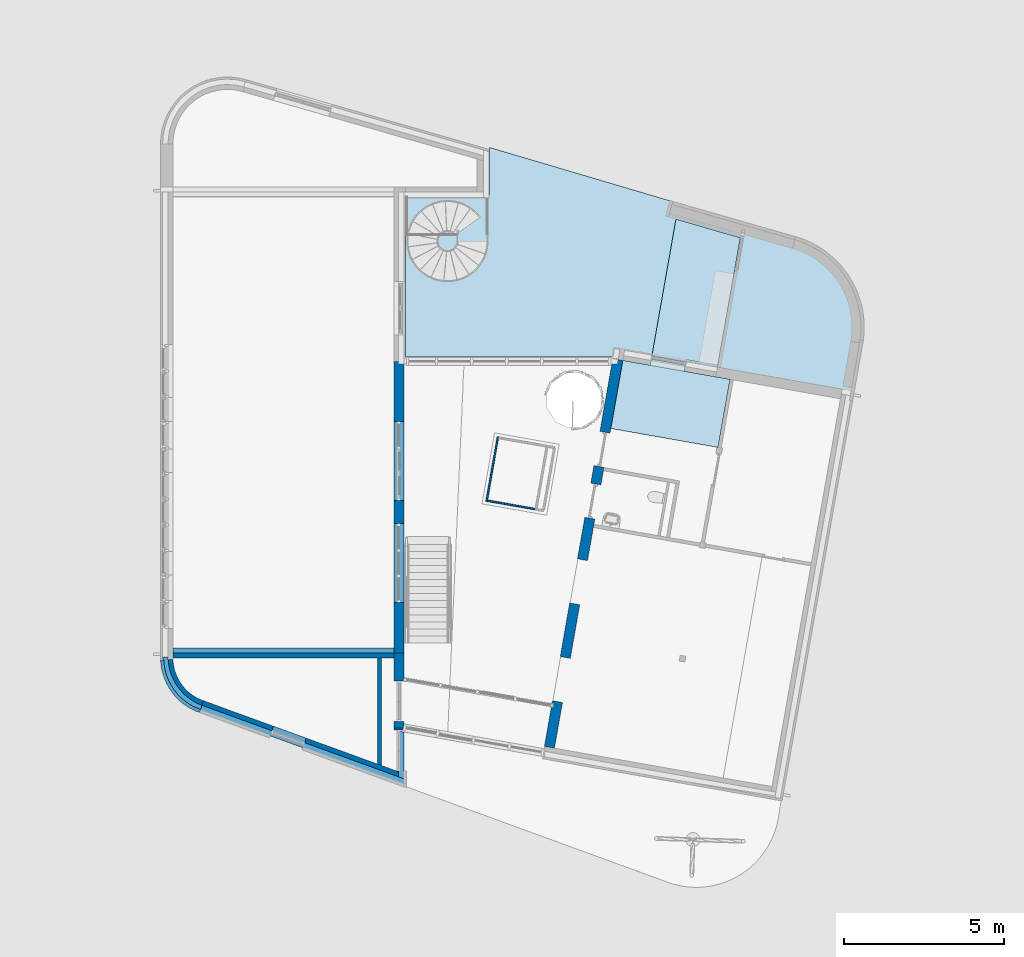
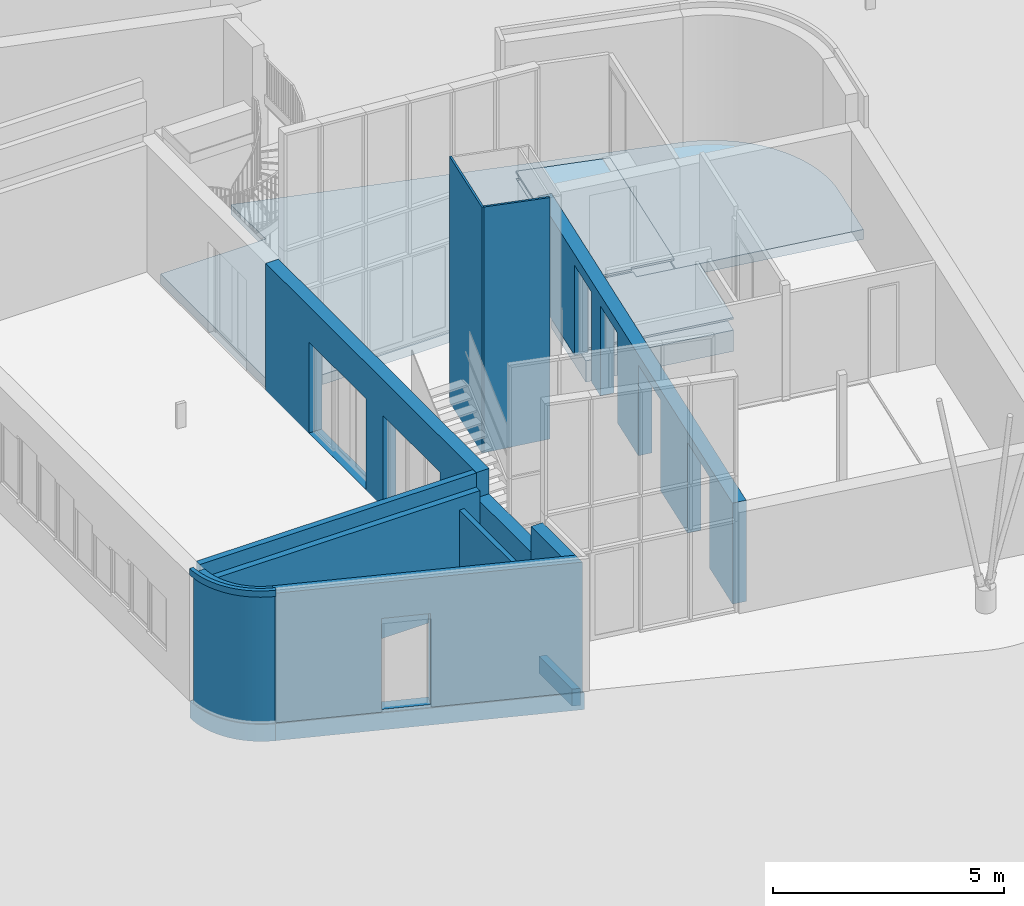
# One storey, part 11 of 21: 15 walls, 5 slabs, 10 openings.
"""IFC2X3 building model written with IfcOpenShell, lengths in millimetres."""

from ifc_helpers import new_model, entity, si_unit, converted_unit, derived_unit, direction, frame, frame_2d, origin, origin_2d_with_axis, place, context, subcontext, project, spatial, polyline, circle_curve, parameter, trimmed, segment, composite_curve, rectangle, outline, extrude, clip, bounded_halfspace, material, layer, layer_set, layer_usage, type_object, element, save


model = new_model("IFC2X3")

# Units and contexts
model_context = context("Model", 3, precision=0.01, world=origin(), true_north=direction((6.12303176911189e-17, 1.0)))
body_context = subcontext(model_context, "Body", "Model", "MODEL_VIEW")
ifc_project = project(units=[si_unit("LENGTHUNIT", "METRE", prefix="MILLI"), si_unit("AREAUNIT", "SQUARE_METRE"), si_unit("VOLUMEUNIT", "CUBIC_METRE"), converted_unit("PLANEANGLEUNIT", "DEGREE", entity("IfcRatioMeasure", 0.0174532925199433), si_unit("PLANEANGLEUNIT", "RADIAN"), dimensions=[0, 0, 0, 0, 0, 0, 0]), si_unit("MASSUNIT", "GRAM", prefix="KILO"), derived_unit("MASSDENSITYUNIT", [(si_unit("MASSUNIT", "GRAM", prefix="KILO"), 1), (si_unit("LENGTHUNIT", "METRE"), -3)]), derived_unit("MOMENTOFINERTIAUNIT", [(si_unit("LENGTHUNIT", "METRE"), 4)]), si_unit("TIMEUNIT", "SECOND"), si_unit("FREQUENCYUNIT", "HERTZ"), si_unit("THERMODYNAMICTEMPERATUREUNIT", "DEGREE_CELSIUS"), derived_unit("THERMALTRANSMITTANCEUNIT", [(si_unit("MASSUNIT", "GRAM", prefix="KILO"), 1), (si_unit("THERMODYNAMICTEMPERATUREUNIT", "KELVIN"), -1), (si_unit("TIMEUNIT", "SECOND"), -3)]), derived_unit("VOLUMETRICFLOWRATEUNIT", [(si_unit("LENGTHUNIT", "METRE"), 3), (si_unit("TIMEUNIT", "SECOND"), -1)]), si_unit("ELECTRICCURRENTUNIT", "AMPERE"), si_unit("ELECTRICVOLTAGEUNIT", "VOLT"), si_unit("POWERUNIT", "WATT"), si_unit("FORCEUNIT", "NEWTON", prefix="KILO"), si_unit("ILLUMINANCEUNIT", "LUX"), si_unit("LUMINOUSFLUXUNIT", "LUMEN"), si_unit("LUMINOUSINTENSITYUNIT", "CANDELA"), derived_unit("USERDEFINED", [(si_unit("MASSUNIT", "GRAM", prefix="KILO"), -1), (si_unit("LENGTHUNIT", "METRE"), -2), (si_unit("TIMEUNIT", "SECOND"), 3), (si_unit("LUMINOUSFLUXUNIT", "LUMEN"), 1)]), derived_unit("LINEARVELOCITYUNIT", [(si_unit("LENGTHUNIT", "METRE"), 1), (si_unit("TIMEUNIT", "SECOND"), -1)]), si_unit("PRESSUREUNIT", "PASCAL"), derived_unit("USERDEFINED", [(si_unit("LENGTHUNIT", "METRE"), -2), (si_unit("MASSUNIT", "GRAM", prefix="KILO"), 1), (si_unit("TIMEUNIT", "SECOND"), -2)]), derived_unit("LINEARFORCEUNIT", [(si_unit("MASSUNIT", "GRAM", prefix="KILO"), 1), (si_unit("LENGTHUNIT", "METRE"), 1), (si_unit("TIMEUNIT", "SECOND"), -2), (si_unit("LENGTHUNIT", "METRE"), -1)]), derived_unit("PLANARFORCEUNIT", [(si_unit("MASSUNIT", "GRAM", prefix="KILO"), 1), (si_unit("LENGTHUNIT", "METRE"), 1), (si_unit("TIMEUNIT", "SECOND"), -2), (si_unit("LENGTHUNIT", "METRE"), -2)])], contexts=[model_context])

# Site, building, storey
site_placement = place(None, origin())
site = spatial("IfcSite", under=ifc_project, at=site_placement, Name="<Kadaster Gemeente>;<Kadaster nummer>;<Kadaster sectie>", CompositionType="ELEMENT")
building_placement = place(site_placement, origin())
building = spatial("IfcBuilding", under=site, at=building_placement, Name="JRCZ Middelburg", CompositionType="ELEMENT")
storey_placement = place(building_placement, origin())
storey = spatial("IfcBuildingStorey", under=building, at=storey_placement, Name="00 begane grond", CompositionType="ELEMENT", Elevation=0.0)

# Slabs
ifc_material_1 = material(Name="RBM_f2_beton_prefab_gen")
ifc_layer_1 = layer(ifc_material_1, 260.0)
ifc_layer_set_1 = layer_set([ifc_layer_1], Name="Floor:RBM_23_FL_kanaalplaat-200mm_gen_rsf")
ifc_layer_usage_1 = layer_usage(ifc_layer_set_1, "AXIS3", "POSITIVE", 0.0)
slab_type_1 = type_object("IfcSlabType", Name="Floor:RBM_23_FL_kanaalplaat-200mm_gen_rsf", PredefinedType="FLOOR", material=ifc_layer_set_1)
slab_1_placement = place(storey_placement, origin())
element("IfcSlab", 1, at=slab_1_placement, inside=storey, type_object=slab_type_1, material=ifc_layer_usage_1, Name="Floor:RBM_23_FL_kanaalplaat-200mm_gen_rsf", ObjectType="Floor:RBM_23_FL_kanaalplaat-200mm_gen_rsf", PredefinedType="FLOOR", context=body_context, shape_type="SweptSolid", body=[
    extrude(outline(composite_curve([segment(polyline([(-2120.34892694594, -7310.95471218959), (2923.01016377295, -7310.95471218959)]), True, "CONTINUOUS"), segment(polyline([(2923.01016377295, -7310.95471218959), (2923.01016377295, -4689.3218513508)]), True, "CONTINUOUS"), segment(polyline([(2923.01016377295, -4689.3218513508), (4427.10749952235, -4689.3218513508)]), True, "CONTINUOUS"), segment(polyline([(4427.10749952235, -4689.3218513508), (1599.15531280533, 4875.05432193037)]), True, "CONTINUOUS"), segment(trimmed(circle_curve(frame_2d((-1205.80631594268, 4070.74451765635), x_axis=(0.961261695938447, 0.275637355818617)), 2917.99999999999), [parameter(0.0)], [parameter(84.0000000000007)], True, "PARAMETER"), True, "CONTINUOUS"), segment(polyline([(-1712.51169837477, 6944.41354094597), (-3222.04385467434, 6678.24229354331)]), True, "CONTINUOUS"), segment(polyline([(-3222.04385467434, 6678.24229354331), (-2472.23102350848, 2425.84241603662)]), True, "CONTINUOUS"), segment(polyline([(-2472.23102350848, 2425.84241603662), (1609.36431708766, 3144.9494493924)]), True, "CONTINUOUS"), segment(polyline([(1609.36431708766, 3144.9494493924), (2185.32986616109, 1133.29765377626)]), True, "CONTINUOUS"), segment(polyline([(2185.32986616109, 1133.29765377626), (-2110.75020569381, 375.782825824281)]), True, "CONTINUOUS"), segment(polyline([(-2110.75020569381, 375.782825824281), (-1908.74268697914, -769.858742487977)]), True, "CONTINUOUS"), segment(polyline([(-1908.74268697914, -769.858742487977), (-2120.34892694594, -807.170631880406)]), True, "CONTINUOUS"), segment(polyline([(-2120.34892694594, -807.170631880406), (-2120.34892694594, -7310.95471218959)]), True, "CONTINUOUS")], self_intersect=False)), frame((24726.9547121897, 21358.989836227, -200.0), z_axis=(0.0, 0.0, -1.0), x_axis=(0.0, 1.0, 0.0)), (0.0, 0.0, 1.0), 260.0),
])
ifc_material_2 = material(Name="RBM_n7_isolatie_hsb_245")
ifc_layer_2 = layer(ifc_material_2, 560.0)
ifc_layer_set_2 = layer_set([ifc_layer_2], Name="Floor:RBM_23_FL_tempex 690mm")
ifc_layer_usage_2 = layer_usage(ifc_layer_set_2, "AXIS3", "POSITIVE", 0.0)
slab_type_2 = type_object("IfcSlabType", Name="Floor:RBM_23_FL_tempex 690mm", PredefinedType="FLOOR", material=ifc_layer_set_2)
slab_2_placement = place(storey_placement, origin())
element("IfcSlab", 2, at=slab_2_placement, inside=storey, type_object=slab_type_2, material=ifc_layer_usage_2, Name="Floor:RBM_23_FL_tempex 690mm", ObjectType="Floor:RBM_23_FL_tempex 690mm", PredefinedType="FLOOR", context=body_context, shape_type="SweptSolid", body=[
    extrude(rectangle(XDim=2160.00000000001, YDim=3400.0, at=frame_2d((-7.95807864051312e-13, -4.32009983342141e-12), x_axis=(1.0, 0.0))), frame((25687.7096934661, 17776.2981837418, -330.0), z_axis=(0.0, 0.0, -1.0), x_axis=(-0.173648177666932, -0.984807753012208, 0.0)), (0.0, 0.0, 1.0), 560.0),
])
ifc_layer_usage_3 = layer_usage(ifc_layer_set_1, "AXIS3", "POSITIVE", 0.0)
slab_type_3 = type_object("IfcSlabType", Name="Floor:RBM_23_FL_kanaalplaat-200mm_gen_rsf", PredefinedType="FLOOR", material=ifc_layer_set_1)
slab_3_placement = place(storey_placement, origin())
element("IfcSlab", 3, at=slab_3_placement, inside=storey, type_object=slab_type_3, material=ifc_layer_usage_3, Name="Floor:RBM_23_FL_kanaalplaat-200mm_gen_rsf", ObjectType="Floor:RBM_23_FL_kanaalplaat-200mm_gen_rsf", PredefinedType="FLOOR", context=body_context, shape_type="SweptSolid", body=[
    extrude(outline(polyline([(-2007.75526353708, -1040.55282633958), (2116.70309843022, -1040.55282633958), (2116.70309843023, 1040.55282633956), (-2225.65093332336, 1040.55282633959), (-2007.75526353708, -1040.55282633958)])), frame((26498.5166280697, 21171.7913056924, -250.0), z_axis=(0.0, 0.0, -1.0), x_axis=(-0.173648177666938, -0.984807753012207, 0.0)), (0.0, 0.0, 1.0), 260.0),
])
ifc_material_3 = material(Name="Roostervloer")
ifc_layer_3 = layer(ifc_material_3, 50.0)
ifc_layer_set_3 = layer_set([ifc_layer_3], Name="Floor:RBM_43_FL_roostervloer")
ifc_layer_usage_4 = layer_usage(ifc_layer_set_3, "AXIS3", "POSITIVE", 0.0)
slab_type_4 = type_object("IfcSlabType", Name="Floor:RBM_43_FL_roostervloer", PredefinedType="FLOOR", material=ifc_layer_set_3)
slab_4_placement = place(storey_placement, origin())
element("IfcSlab", 4, at=slab_4_placement, inside=storey, type_object=slab_type_4, material=ifc_layer_usage_4, Name="Floor:RBM_43_FL_roostervloer", ObjectType="Floor:RBM_43_FL_roostervloer", PredefinedType="FLOOR", context=body_context, shape_type="SweptSolid", body=[
    extrude(outline(polyline([(-2680.65629634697, -1026.07043511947), (1365.80206562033, -1026.07043511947), (1365.80206562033, -28.9647824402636), (1423.80206561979, -28.9647824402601), (1423.80206561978, 1055.03521755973), (-2898.55196613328, 1055.03521755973), (-2680.65629634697, -1026.07043511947)])), frame((26395.9309611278, 20506.5983107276, 0.0), z_axis=(0.0, 0.0, -1.0), x_axis=(-0.17364817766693, -0.984807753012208, 0.0)), (0.0, 0.0, 1.0), 50.0),
])
ifc_layer_usage_5 = layer_usage(ifc_layer_set_3, "AXIS3", "POSITIVE", 0.0)
slab_type_5 = type_object("IfcSlabType", Name="Floor:RBM_43_FL_roostervloer", PredefinedType="FLOOR", material=ifc_layer_set_3)
slab_5_placement = place(storey_placement, origin())
element("IfcSlab", 5, at=slab_5_placement, inside=storey, type_object=slab_type_5, material=ifc_layer_usage_5, Name="Floor:RBM_43_FL_roostervloer", ObjectType="Floor:RBM_43_FL_roostervloer", PredefinedType="FLOOR", context=body_context, shape_type="SweptSolid", body=[
    extrude(outline(polyline([(-491.499999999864, -1844.84253192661), (1668.50000000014, -1844.84253192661), (1668.50000000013, 1555.15746807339), (-491.499999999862, 1555.15746807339), (-491.499999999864, 686.842531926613), (-685.500000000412, 686.842531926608), (-685.500000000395, -397.157468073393), (-491.499999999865, -397.15746807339), (-491.499999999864, -1844.84253192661)])), frame((25647.2595976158, 18381.0091881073, 0.0), z_axis=(0.0, 0.0, -1.0), x_axis=(-0.17364817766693, -0.984807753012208, 0.0)), (0.0, 0.0, 1.0), 50.0),
])

# Wall, openings
ifc_material_4 = material(Name="RBM_f7_gips_beplating wand")
ifc_layer_4 = layer(ifc_material_4, 12.5)
ifc_material_5 = material(Name="RBM_i4_multiplex_beplating")
ifc_layer_5 = layer(ifc_material_5, 18.0)
ifc_material_6 = material(Name="RBM_n7_isolatie_hsb_270")
ifc_layer_6 = layer(ifc_material_6, 270.0)
ifc_layer_7 = layer(ifc_material_5, 18.0)
ifc_layer_set_4 = layer_set([ifc_layer_4, ifc_layer_5, ifc_layer_6, ifc_layer_7], Name="Basic Wall:22_hsb_binnenwand_gips_318,5mm")
ifc_layer_usage_6 = layer_usage(ifc_layer_set_4, "AXIS2", "NEGATIVE", 159.25)
wall_type_1 = type_object("IfcWallType", Name="Basic Wall:22_hsb_binnenwand_gips_318,5mm", PredefinedType="STANDARD", material=ifc_layer_set_4)
wall_1_placement = place(storey_placement, frame((17209.2500000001, 19103.6233878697, -10.0), z_axis=(0.0, 0.0, 1.0), x_axis=(0.0, -1.0, 0.0)))
wall_1 = element("IfcWallStandardCase", 6, at=wall_1_placement, inside=storey, type_object=wall_type_1, material=ifc_layer_usage_6, Name="Basic Wall:22_hsb_binnenwand_gips_318,5mm", ObjectType="Basic Wall:22_hsb_binnenwand_gips_318,5mm", context=body_context, shape_type="SweptSolid", body=[
    extrude(rectangle(XDim=9103.62338786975, YDim=318.500000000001, at=frame_2d((4551.81169393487, 0.0), x_axis=(-1.0, 0.0))), origin(), (0.0, 0.0, 1.0), 3355.0),
])
opening_1_placement = place(storey_placement, frame((17209.2500000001, 19103.6233878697, -10.0), z_axis=(0.0, 0.0, 1.0), x_axis=(0.0, -1.0, 0.0)))
element("IfcOpeningElement", 7, at=opening_1_placement, cuts=wall_1, Name="Basic Wall:22_hsb_binnenwand_gips_318,5mm:1", ObjectType="Opening", context=body_context, shape_type="SweptSolid", body=[
    extrude(outline(polyline([(-668.369513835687, -25.2448096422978), (659.46828483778, -25.2448096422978), (668.371478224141, 25.2448096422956), (-659.470249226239, 25.2448096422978), (-668.369513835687, -25.2448096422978)])), frame((4577.87402907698, 134.005190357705, 2960.0)), (0.0, 0.0, 1.0), 50.0),
])
opening_2_placement = place(wall_1_placement, origin())
element("IfcOpeningElement", 8, at=opening_2_placement, cuts=wall_1, Name="Basic Wall:22_hsb_binnenwand_gips_318,5mm", ObjectType="Opening", context=body_context, shape_type="SweptSolid", body=[
    extrude(rectangle(XDim=2400.0, YDim=2467.0, at=frame_2d((-2.1600499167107e-12, 0.0), x_axis=(0.0, 1.0))), frame((6303.62338817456, -311.649999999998, 1210.0), z_axis=(0.0, 1.0, 0.0), x_axis=(-1.0, 0.0, 0.0)), (0.0, 0.0, 1.0), 623.299999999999),
])
opening_3_placement = place(wall_1_placement, origin())
element("IfcOpeningElement", 9, at=opening_3_placement, cuts=wall_1, Name="Basic Wall:22_hsb_binnenwand_gips_318,5mm", ObjectType="Opening", context=body_context, shape_type="SweptSolid", body=[
    extrude(rectangle(XDim=2400.0, YDim=2467.0, at=frame_2d((2.1600499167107e-12, 0.0), x_axis=(0.0, 1.0))), frame((3103.62338817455, -311.649999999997, 1210.0), z_axis=(0.0, 1.0, 0.0), x_axis=(-1.0, 0.0, 0.0)), (0.0, 0.0, 1.0), 623.299999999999),
])

ifc_layer_usage_7 = layer_usage(ifc_layer_set_4, "AXIS2", "NEGATIVE", 159.25)
wall_2_placement = place(storey_placement, frame((21908.3733252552, 7049.61056927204, 0.0), z_axis=(0.0, 0.0, 1.0), x_axis=(0.17364817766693, 0.984807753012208, 0.0)))
wall_2 = element("IfcWallStandardCase", 10, at=wall_2_placement, inside=storey, type_object=wall_type_1, material=ifc_layer_usage_7, Name="Basic Wall:22_hsb_binnenwand_gips_318,5mm", ObjectType="Basic Wall:22_hsb_binnenwand_gips_318,5mm", context=body_context, shape_type="SweptSolid", body=[
    extrude(rectangle(XDim=12300.0, YDim=318.5, at=frame_2d((6149.99999999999, -8.5265128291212e-13), x_axis=(-1.0, 0.0))), origin(), (0.0, 0.0, 1.0), 2666.0),
])
opening_4_placement = place(wall_2_placement, origin())
element("IfcOpeningElement", 11, at=opening_4_placement, cuts=wall_2, Name="Basic Wall:22_hsb_binnenwand_gips_318,5mm", ObjectType="Opening", context=body_context, shape_type="SweptSolid", body=[
    extrude(rectangle(XDim=2400.0, YDim=1400.00000000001, at=origin_2d_with_axis()), frame((5250.0, -159.25, 1200.0), z_axis=(0.0, 1.0, 0.0), x_axis=(0.0, 0.0, -1.0)), (0.0, 0.0, 1.0), 318.499999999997),
])
opening_5_placement = place(wall_2_placement, origin())
element("IfcOpeningElement", 12, at=opening_5_placement, cuts=wall_2, Name="Basic Wall:22_hsb_binnenwand_gips_318,5mm", ObjectType="Opening", context=body_context, shape_type="SweptSolid", body=[
    extrude(rectangle(XDim=2400.0, YDim=1400.0, at=frame_2d((0.0, -1.02318153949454e-12), x_axis=(1.0, 0.0))), frame((2150.0, -159.249999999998, 1200.0), z_axis=(0.0, 1.0, 0.0), x_axis=(0.0, 0.0, -1.0)), (0.0, 0.0, 1.0), 318.499999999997),
])
opening_6_placement = place(wall_2_placement, frame((-10746.8602479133, 20351.3838779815, 0.0), z_axis=(0.0, 0.0, 1.0), x_axis=(0.17364817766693, -0.984807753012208, 0.0)))
element("IfcOpeningElement", 13, at=opening_6_placement, cuts=wall_2, Name="Basic Wall:22_hsb_binnenwand_gips_318,5mm", ObjectType="Opening", context=body_context, shape_type="SweptSolid", body=[
    extrude(rectangle(XDim=2377.0, YDim=1084.0, at=frame_2d((1.4210854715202e-12, 0.0), x_axis=(0.0, 1.0))), frame((24893.3649851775, 16119.0574850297, 1188.5), z_axis=(-0.984807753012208, 0.17364817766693, 0.0), x_axis=(-0.17364817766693, -0.984807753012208, 0.0)), (0.0, 0.0, 1.0), 3048.0),
])
opening_7_placement = place(wall_2_placement, frame((-10746.8602479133, 20351.3838779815, 0.0), z_axis=(0.0, 0.0, 1.0), x_axis=(0.17364817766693, -0.984807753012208, 0.0)))
element("IfcOpeningElement", 14, at=opening_7_placement, cuts=wall_2, Name="Basic Wall:22_hsb_binnenwand_gips_318,5mm", ObjectType="Opening", context=body_context, shape_type="SweptSolid", body=[
    extrude(rectangle(XDim=2377.0, YDim=1084.0, at=frame_2d((0.0, -1.4210854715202e-12), x_axis=(1.0, 0.0))), frame((24921.8959467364, 14446.6962097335, 1188.5), z_axis=(-0.984807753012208, 0.17364817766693, 0.0), x_axis=(0.0, 0.0, 1.0)), (0.0, 0.0, 1.0), 3048.0),
])

# Wall, opening
ifc_layer_usage_8 = layer_usage(ifc_layer_set_4, "AXIS2", "NEGATIVE", 159.25)
wall_3_placement = place(storey_placement, frame((17209.2500000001, 10000.0, 0.0), z_axis=(0.0, 0.0, 1.0), x_axis=(0.0, -1.0, 0.0)))
wall_3 = element("IfcWallStandardCase", 15, at=wall_3_placement, inside=storey, type_object=wall_type_1, material=ifc_layer_usage_8, Name="Basic Wall:22_hsb_binnenwand_gips_318,5mm", ObjectType="Basic Wall:22_hsb_binnenwand_gips_318,5mm", context=body_context, shape_type="SweptSolid", body=[
    extrude(rectangle(XDim=2351.37637520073, YDim=318.500000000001, at=frame_2d((1175.68818760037, -2.1316282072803e-13), x_axis=(-1.0, 0.0))), origin(), (0.0, 0.0, 1.0), 2676.0),
])
opening_8_placement = place(wall_3_placement, origin())
element("IfcOpeningElement", 16, at=opening_8_placement, cuts=wall_3, Name="Basic Wall:22_hsb_binnenwand_gips_318,5mm", ObjectType="Opening", context=body_context, shape_type="SweptSolid", body=[
    extrude(rectangle(XDim=2000.0, YDim=1280.0, at=frame_2d((0.0, 0.0), x_axis=(0.0, 1.0))), frame((1511.25921397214, -311.65, 1000.0), z_axis=(0.0, 1.0, 0.0), x_axis=(-1.0, 0.0, 0.0)), (0.0, 0.0, 1.0), 623.299999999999),
])

# Wall
ifc_layer_8 = layer(ifc_material_5, 18.0)
ifc_layer_9 = layer(ifc_material_6, 270.0)
ifc_layer_10 = layer(ifc_material_5, 18.0)
ifc_layer_set_5 = layer_set([ifc_layer_8, ifc_layer_9, ifc_layer_10], Name="Basic Wall:22_WA_hsb_binnenwand_306mm")
ifc_layer_usage_9 = layer_usage(ifc_layer_set_5, "AXIS2", "NEGATIVE", 153.0)
wall_type_2 = type_object("IfcWallType", Name="Basic Wall:22_WA_hsb_binnenwand_306mm", PredefinedType="STANDARD", material=ifc_layer_set_5)
wall_4_placement = place(storey_placement, frame((17050.0, 9997.0, -80.0), z_axis=(0.0, 0.0, 1.0), x_axis=(-1.0, 0.0, 0.0)))
element("IfcWallStandardCase", 17, at=wall_4_placement, inside=storey, type_object=wall_type_2, material=ifc_layer_usage_9, Name="Basic Wall:22_WA_hsb_binnenwand_306mm", ObjectType="Basic Wall:22_WA_hsb_binnenwand_306mm", context=body_context, shape_type="SweptSolid", body=[
    extrude(rectangle(XDim=6900.0, YDim=306.0, at=frame_2d((3450.0, -1.06581410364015e-12), x_axis=(-1.0, 0.0))), origin(), (0.0, 0.0, 1.0), 3045.0),
])

# Wall, opening
ifc_layer_11 = layer(ifc_material_6, 270.0)
ifc_layer_12 = layer(ifc_material_5, 18.0)
ifc_layer_set_6 = layer_set([ifc_layer_11, ifc_layer_12], Name="Basic Wall:21_RBM_WA_hsb_270mm -  geïsoleerd")
ifc_layer_usage_10 = layer_usage(ifc_layer_set_6, "AXIS2", "POSITIVE", -144.0)
wall_type_3 = type_object("IfcWallType", Name="Basic Wall:21_RBM_WA_hsb_270mm -  geïsoleerd", PredefinedType="STANDARD", material=ifc_layer_set_6)
wall_5_placement = place(storey_placement, frame((17200.0, 6233.57866799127, 0.0), z_axis=(0.0, 0.0, 1.0), x_axis=(0.0, 1.0, 0.0)))
wall_5 = element("IfcWallStandardCase", 18, at=wall_5_placement, inside=storey, type_object=wall_type_3, material=ifc_layer_usage_10, Name="Basic Wall:21_RBM_WA_hsb_270mm -  geïsoleerd", ObjectType="Basic Wall:21_RBM_WA_hsb_270mm -  geïsoleerd", context=body_context, shape_type="SweptSolid", body=[
    extrude(outline(polyline([(0.0, -144.0), (1415.044956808, -144.0), (1415.04495680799, 144.0), (104.823427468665, 144.0), (0.0, -144.0)])), origin(), (0.0, 0.0, 1.0), 3350.0),
])
opening_9_placement = place(wall_5_placement, origin())
element("IfcOpeningElement", 19, at=opening_9_placement, cuts=wall_5, Name="Basic Wall:21_RBM_WA_hsb_270mm -  geïsoleerd", ObjectType="Opening", context=body_context, shape_type="SweptSolid", body=[
    extrude(rectangle(XDim=2400.0, YDim=1280.0, at=origin_2d_with_axis()), frame((718.383495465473, -296.399999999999, 1200.0), z_axis=(0.0, 1.0, 0.0), x_axis=(0.0, 0.0, 1.0)), (0.0, 0.0, 1.0), 592.8),
])

ifc_layer_usage_11 = layer_usage(ifc_layer_set_6, "AXIS2", "POSITIVE", -144.0)
wall_6_placement = place(storey_placement, frame((11048.3642880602, 8371.76107368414, -70.0), z_axis=(0.0, 0.0, 1.0), x_axis=(0.93969262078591, -0.342020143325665, 0.0)))
wall_6 = element("IfcWallStandardCase", 20, at=wall_6_placement, inside=storey, type_object=wall_type_3, material=ifc_layer_usage_11, Name="Basic Wall:21_RBM_WA_hsb_270mm -  geïsoleerd", ObjectType="Basic Wall:21_RBM_WA_hsb_270mm -  geïsoleerd", context=body_context, shape_type="SweptSolid", body=[
    extrude(outline(polyline([(6752.08730198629, -144.0), (6647.26387451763, 144.0), (0.0, 144.0), (0.0, -144.0), (6752.08730198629, -144.0)])), origin(), (0.0, 0.0, 1.0), 3420.0),
])
opening_10_placement = place(wall_6_placement, origin())
element("IfcOpeningElement", 21, at=opening_10_placement, cuts=wall_6, Name="Basic Wall:21_RBM_WA_hsb_270mm -  geïsoleerd", ObjectType="Opening", context=body_context, shape_type="SweptSolid", body=[
    extrude(rectangle(XDim=2400.0, YDim=1084.0, at=origin_2d_with_axis()), frame((2880.90891550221, -296.400000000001, 1270.0), z_axis=(0.0, 1.0, 0.0), x_axis=(0.0, 0.0, 1.0)), (0.0, 0.0, 1.0), 592.799999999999),
])

# Walls
ifc_layer_usage_12 = layer_usage(ifc_layer_set_6, "AXIS2", "POSITIVE", -144.0)
wall_7_placement = place(storey_placement, frame((11049.4464960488, 8371.19306263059, -70.0)))
element("IfcWallStandardCase", 22, at=wall_7_placement, inside=storey, type_object=wall_type_3, material=ifc_layer_usage_12, Name="Basic Wall:21_RBM_WA_hsb_270mm -  geïsoleerd", ObjectType="Basic Wall:21_RBM_WA_hsb_270mm -  geïsoleerd", context=body_context, shape_type="SweptSolid", body=[
    extrude(outline(composite_curve([segment(trimmed(circle_curve(frame_2d((522.823697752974, 1476.43903648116), x_axis=(1.0, 0.0)), 1710.27483136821), [parameter(182.131811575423)], [parameter(250.50037193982)], True, "PARAMETER"), True, "CONTINUOUS"), segment(polyline([(-48.0673065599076, -135.74068675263), (48.067306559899, 135.740686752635)]), True, "CONTINUOUS"), segment(trimmed(circle_curve(frame_2d((522.823697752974, 1476.43903648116), x_axis=(1.0, 0.0)), 1422.27483136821), [parameter(182.131811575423)], [parameter(250.50037193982)], True, "PARAMETER"), False, "CONTINUOUS"), segment(polyline([(-898.466769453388, 1423.53247949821), (-1186.26744308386, 1412.81929799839)]), True, "CONTINUOUS")], self_intersect=False)), origin(), (0.0, 0.0, 1.0), 3420.0),
])
ifc_material_7 = material(Name="RBM_o1_glas_helder")
ifc_layer_13 = layer(ifc_material_7, 50.0)
ifc_layer_set_7 = layer_set([ifc_layer_13], Name="Basic Wall:22_RBM_WA_ontwerpwand-40mm_transparant")
ifc_layer_usage_13 = layer_usage(ifc_layer_set_7, "AXIS2", "NEGATIVE", 25.0)
wall_type_4 = type_object("IfcWallType", Name="Basic Wall:22_RBM_WA_ontwerpwand-40mm_transparant", PredefinedType="STANDARD", material=ifc_layer_set_7)
wall_8_placement = place(storey_placement, frame((19944.4385402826, 14731.0452868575, -20.0), z_axis=(0.0, 0.0, 1.0), x_axis=(0.17364817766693, 0.984807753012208, 0.0)))
element("IfcWallStandardCase", 23, at=wall_8_placement, inside=storey, type_object=wall_type_4, material=ifc_layer_usage_13, Name="Basic Wall:22_RBM_WA_ontwerpwand-40mm_transparant", ObjectType="Basic Wall:22_RBM_WA_ontwerpwand-40mm_transparant", context=body_context, shape_type="Clipping", body=[
    clip(extrude(rectangle(XDim=2050.0, YDim=49.9999999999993, at=frame_2d((1025.0, 1.48325796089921e-12), x_axis=(-1.0, 0.0))), origin(), (0.0, 0.0, 1.0), 6486.76741281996), bounded_halfspace(frame((0.0, -25.0, 6483.01741281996), z_axis=(0.0, 0.0747899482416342, -0.997199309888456), x_axis=(0.0, 0.997199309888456, 0.0747899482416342)), True, frame((0.0, -25.0, 6483.01741281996)), polyline([(0.0, 0.0), (50.0, 0.0), (2000.0, 0.0), (2050.0, 0.0), (2050.0, 50.0), (0.0, 50.0), (0.0, 0.0)]))),
])
ifc_layer_usage_14 = layer_usage(ifc_layer_set_7, "AXIS2", "NEGATIVE", 25.0)
wall_9_placement = place(storey_placement, frame((21464.2581026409, 14488.4457575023, -20.0), z_axis=(0.0, 0.0, 1.0), x_axis=(-0.984807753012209, 0.173648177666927, 0.0)))
element("IfcWallStandardCase", 24, at=wall_9_placement, inside=storey, type_object=wall_type_4, material=ifc_layer_usage_14, Name="Basic Wall:22_RBM_WA_ontwerpwand-40mm_transparant", ObjectType="Basic Wall:22_RBM_WA_ontwerpwand-40mm_transparant", context=body_context, shape_type="Clipping", body=[
    clip(extrude(outline(polyline([(1513.85705436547, -25.0), (1513.85705436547, 25.0), (0.0, 25.0), (0.00852088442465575, -25.0), (1513.85705436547, -25.0)])), origin(), (0.0, 0.0, 1.0), 6483.01741281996), bounded_halfspace(frame((0.00852088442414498, -25.0, 6369.47877280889), z_axis=(0.0747899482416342, 0.0, -0.997199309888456), x_axis=(0.997199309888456, 0.0, 0.0747899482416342)), True, frame((0.00852088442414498, -25.0, 6369.47877280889)), polyline([(0.0, 0.0), (1513.84853348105, 0.0), (1513.84853348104, 50.0), (-0.00852088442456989, 50.0), (0.0, 0.0)]))),
])
ifc_material_8 = material(Name="gevel antraciet")
ifc_layer_14 = layer(ifc_material_8, 20.0)
ifc_material_9 = material(Name="RBM_n7_isolatie_hsb_100")
ifc_layer_15 = layer(ifc_material_9, 100.0)
ifc_layer_set_8 = layer_set([ifc_layer_14, ifc_layer_15], Name="Basic Wall:21_hsb_100mm")
ifc_layer_usage_15 = layer_usage(ifc_layer_set_8, "AXIS2", "NEGATIVE", 60.0)
wall_type_5 = type_object("IfcWallType", Name="Basic Wall:21_hsb_100mm", PredefinedType="STANDARD", material=ifc_layer_set_8)
wall_10_placement = place(storey_placement, frame((16596.0, 6483.99018916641, 0.0), z_axis=(0.0, 0.0, 1.0), x_axis=(0.0, 1.0, 0.0)))
element("IfcWallStandardCase", 25, at=wall_10_placement, inside=storey, type_object=wall_type_5, material=ifc_layer_usage_15, Name="Basic Wall:21_hsb_100mm", ObjectType="Basic Wall:21_hsb_100mm", context=body_context, shape_type="SweptSolid", body=[
    extrude(outline(polyline([(3360.00981083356, -60.0), (3360.00981083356, 60.0), (43.6764281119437, 60.0), (0.0, -60.0), (3360.00981083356, -60.0)])), origin(), (0.0, 0.0, 1.0), 2630.0),
])
ifc_material_10 = material(Name="geisoleerde cementvezelplaat")
ifc_layer_16 = layer(ifc_material_10, 20.0)
ifc_material_11 = material(Name="RBM_n7_isolatie_resol")
ifc_layer_17 = layer(ifc_material_11, 150.0)
ifc_layer_set_9 = layer_set([ifc_layer_16, ifc_layer_17], Name="Basic Wall:21_RBM_WA_170mm_geïsoleerde_kantplank")
ifc_layer_usage_16 = layer_usage(ifc_layer_set_9, "AXIS2", "NEGATIVE", 85.0)
wall_type_6 = type_object("IfcWallType", Name="Basic Wall:21_RBM_WA_170mm_geïsoleerde_kantplank", PredefinedType="STANDARD", material=ifc_layer_set_9)
wall_11_placement = place(storey_placement, frame((17399.0717121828, 5963.45242747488, -520.0), z_axis=(0.0, 0.0, 1.0), x_axis=(-0.939692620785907, 0.342020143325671, 0.0)))
element("IfcWallStandardCase", 26, at=wall_11_placement, inside=storey, type_object=wall_type_6, material=ifc_layer_usage_16, Name="Basic Wall:21_RBM_WA_170mm_geïsoleerde_kantplank", ObjectType="Basic Wall:21_RBM_WA_170mm_geïsoleerde_kantplank", context=body_context, shape_type="SweptSolid", body=[
    extrude(outline(polyline([(6778.48680088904, -85.0), (6778.48680088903, 85.0), (0.0, 85.0), (61.8749398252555, -85.0), (242.785161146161, -85.0), (6778.48680088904, -85.0)])), origin(), (0.0, 0.0, 1.0), 450.0),
])
ifc_layer_usage_17 = layer_usage(ifc_layer_set_9, "AXIS2", "POSITIVE", -85.0)
wall_12_placement = place(storey_placement, frame((11029.377685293, 8281.831454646, -520.0)))
element("IfcWallStandardCase", 27, at=wall_12_placement, inside=storey, type_object=wall_type_6, material=ifc_layer_usage_17, Name="Basic Wall:21_RBM_WA_170mm_geïsoleerde_kantplank", ObjectType="Basic Wall:21_RBM_WA_170mm_geïsoleerde_kantplank", context=body_context, shape_type="SweptSolid", body=[
    extrude(outline(composite_curve([segment(trimmed(circle_curve(frame_2d((579.263208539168, 1591.51258538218), x_axis=(1.0, 0.0)), 1778.65231797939), [parameter(180.20535450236)], [parameter(249.999999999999)], True, "PARAMETER"), True, "CONTINUOUS"), segment(polyline([(-29.0717121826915, -79.8738727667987), (29.0717121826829, 79.8738727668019)]), True, "CONTINUOUS"), segment(trimmed(circle_curve(frame_2d((579.263208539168, 1591.51258538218), x_axis=(1.0, 0.0)), 1608.65231797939), [parameter(180.215932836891)], [parameter(250.0)], True, "PARAMETER"), False, "CONTINUOUS"), segment(polyline([(-1029.37768529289, 1585.45000905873), (-1199.37768529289, 1585.13770955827)]), True, "CONTINUOUS")], self_intersect=False)), origin(), (0.0, 0.0, 1.0), 450.0),
])
ifc_layer_usage_18 = layer_usage(ifc_layer_set_9, "AXIS2", "NEGATIVE", 85.0)
wall_13_placement = place(storey_placement, frame((17285.0, 7554.8873059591, -520.0), z_axis=(0.0, 0.0, 1.0), x_axis=(0.0, -1.0, 0.0)))
element("IfcWallStandardCase", 28, at=wall_13_placement, inside=storey, type_object=wall_type_6, material=ifc_layer_usage_18, Name="Basic Wall:21_RBM_WA_170mm_geïsoleerde_kantplank", ObjectType="Basic Wall:21_RBM_WA_170mm_geïsoleerde_kantplank", context=body_context, shape_type="SweptSolid", body=[
    extrude(outline(polyline([(1428.52359010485, -85.0), (1490.39852993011, 85.0), (29.9755867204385, 85.0), (0.0, -85.0), (1428.52359010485, -85.0)])), origin(), (0.0, 0.0, 1.0), 450.0),
])
ifc_material_12 = material(Name="Gevelafwerking")
ifc_layer_18 = layer(ifc_material_12, 30.0)
ifc_material_13 = material(Name="ISR_Luchtspouw")
ifc_layer_19 = layer(ifc_material_13, 35.0)
ifc_layer_20 = layer(ifc_material_13, 35.0)
ifc_layer_set_10 = layer_set([ifc_layer_18, ifc_layer_19, ifc_layer_20], Name="Basic Wall:20_RBM_WA_HSB_wand-100mm_gevelafwerking")
ifc_layer_usage_19 = layer_usage(ifc_layer_set_10, "AXIS2", "POSITIVE", -50.0)
wall_type_7 = type_object("IfcWallType", Name="Basic Wall:20_RBM_WA_HSB_wand-100mm_gevelafwerking", PredefinedType="STANDARD", material=ifc_layer_set_10)
wall_14_placement = place(storey_placement, frame((10997.0308953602, 8184.00136139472, -70.0)))
element("IfcWallStandardCase", 29, at=wall_14_placement, inside=storey, type_object=wall_type_7, material=ifc_layer_usage_19, Name="Basic Wall:20_RBM_WA_HSB_wand-100mm_gevelafwerking", ObjectType="Basic Wall:20_RBM_WA_HSB_wand-100mm_gevelafwerking", context=body_context, shape_type="Clipping", body=[
    clip(clip(extrude(outline(composite_curve([segment(trimmed(circle_curve(frame_2d((575.239298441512, 1663.63073771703), x_axis=(1.0, 0.0)), 1710.27483136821), [parameter(182.140607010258)], [parameter(250.925974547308)], True, "PARAMETER"), False, "CONTINUOUS"), segment(polyline([(-1133.84205603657, 1599.74863860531), (-1233.90802626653, 1599.74863860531)]), True, "CONTINUOUS"), segment(trimmed(circle_curve(frame_2d((575.239298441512, 1663.63073771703), x_axis=(1.0, 0.0)), 1810.27483136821), [parameter(182.022308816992)], [parameter(250.900035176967)], True, "PARAMETER"), True, "CONTINUOUS"), segment(polyline([(-17.1139782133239, -46.9868585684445), (16.3394740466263, 47.2548578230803)]), True, "CONTINUOUS")], self_intersect=False)), origin(), (0.0, 0.0, 1.0), 3570.0), bounded_halfspace(frame((-1133.84205603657, 1599.74863860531, 0.0), z_axis=(0.0, -1.0, 0.0), x_axis=(-1.0, 0.0, 0.0)), True, frame((-1133.84205603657, 1599.74863860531, 0.0), z_axis=(0.0, -1.0, 0.0), x_axis=(-1.0, 0.0, 0.0)), polyline([(0.0, 0.0), (0.0, -3405.0), (100.065970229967, -3405.0), (100.065970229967, 0.0), (0.0, 0.0)]))), bounded_halfspace(frame((-1133.84205603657, 1599.74863860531, 3405.0), z_axis=(0.0, 0.0, 1.0), x_axis=(-1.0, 0.0, 0.0)), True, frame((-1133.84205603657, 1599.74863860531, 3405.0), z_axis=(0.0, 0.0, 1.0), x_axis=(-1.0, 0.0, 0.0)), composite_curve([segment(trimmed(circle_curve(frame_2d((-520927.99684492, -19471.2638092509), x_axis=(-1.0, 0.0)), 1710.27483136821), [parameter(182.131811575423)], [parameter(182.140607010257)], True, "PARAMETER"), False, "CONTINUOUS"), segment(trimmed(circle_curve(frame_2d((-520927.99684492, -19471.2638092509), x_axis=(-1.0, 0.0)), 1710.27483136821), [parameter(181.93109390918)], [parameter(182.131811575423)], True, "PARAMETER"), False, "CONTINUOUS"), segment(trimmed(circle_curve(frame_2d((-520927.99684492, -19471.2638092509), x_axis=(-1.0, 0.0)), 1710.27483136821), [parameter(181.562228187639)], [parameter(181.93109390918)], True, "PARAMETER"), False, "CONTINUOUS"), segment(polyline([(170.010188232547, -5259.47021145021), (30638.6809232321, -4428.50472350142)]), True, "CONTINUOUS"), segment(trimmed(circle_curve(frame_2d((-520927.99684492, -19471.2638092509), x_axis=(-1.0, 0.0)), 1810.27483136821), [parameter(181.562228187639)], [parameter(181.824382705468)], True, "PARAMETER"), True, "CONTINUOUS"), segment(trimmed(circle_curve(frame_2d((-520927.99684492, -19471.2638092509), x_axis=(-1.0, 0.0)), 1810.27483136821), [parameter(181.824382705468)], [parameter(182.022308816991)], True, "PARAMETER"), True, "CONTINUOUS"), segment(polyline([(30500.1077260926, 0.0), (0.0, 0.0)]), True, "CONTINUOUS")], self_intersect=False))),
])
ifc_layer_21 = layer(ifc_material_6, 132.0)
ifc_layer_22 = layer(ifc_material_5, 18.0)
ifc_layer_set_11 = layer_set([ifc_layer_21, ifc_layer_22], Name="Basic Wall:22_hsb_270 passtrook")
ifc_layer_usage_20 = layer_usage(ifc_layer_set_11, "AXIS2", "NEGATIVE", 75.0)
wall_type_8 = type_object("IfcWallType", Name="Basic Wall:22_hsb_270 passtrook", PredefinedType="STANDARD", material=ifc_layer_set_11)
wall_15_placement = place(storey_placement, frame((17050.0, 10075.0, 2965.0), z_axis=(0.0, 0.0, 1.0), x_axis=(-1.0, 0.0, 0.0)))
element("IfcWallStandardCase", 30, at=wall_15_placement, inside=storey, type_object=wall_type_8, material=ifc_layer_usage_20, Name="Basic Wall:22_hsb_270 passtrook", ObjectType="Basic Wall:22_hsb_270 passtrook", context=body_context, shape_type="Clipping", body=[
    clip(clip(extrude(rectangle(XDim=6900.0, YDim=150.000000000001, at=frame_2d((3450.0, -1.05160324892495e-12), x_axis=(-1.0, 0.0))), origin(), (0.0, 0.0, 1.0), 370.0), bounded_halfspace(frame((0.0, -75.0, 370.0), z_axis=(0.0, 0.0, -1.0), x_axis=(0.0, -1.0, 0.0)), True, frame((0.0, -75.0, 370.0)), polyline([(0.0, 0.0), (6900.0, 0.0), (6900.0, 150.0), (0.0, 150.0), (0.0, 0.0)]))), bounded_halfspace(frame((6900.0, -75.0, 0.0), z_axis=(0.0, 0.0, 1.0), x_axis=(0.0, 1.0, 0.0)), True, frame((6900.0, -75.0, 0.0), z_axis=(0.0, 0.0, 1.0), x_axis=(0.0, 1.0, 0.0)), polyline([(0.0, 0.0), (150.0, 0.0), (150.0, 6900.0), (0.0, 6900.0), (0.0, 0.0)]))),
])

save(model, "model.ifc")
